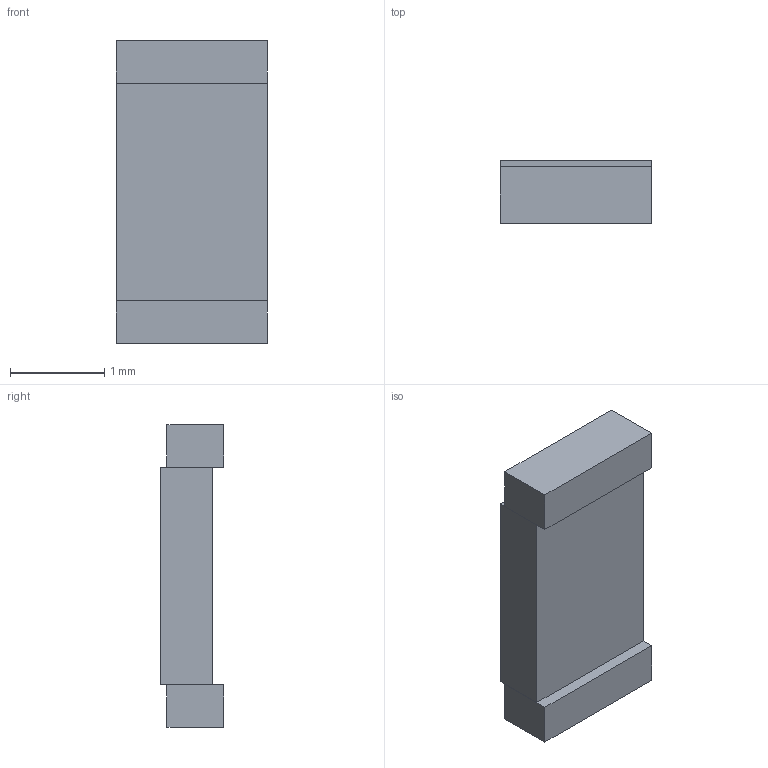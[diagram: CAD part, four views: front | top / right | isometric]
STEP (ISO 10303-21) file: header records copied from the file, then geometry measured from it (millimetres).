
FILE_DESCRIPTION(/* description */ (''),/* implementation_level */ '2;1');
FILE_NAME(/* name */ 'C:\Users\Hani\Desktop\work\F1206\F1206.stp',/* time_stamp */ '2022-02-18T14:08:20-08:00',/* author */ ('Hani'),/* organization */ (''),/* preprocessor_version */ 'ST-DEVELOPER v17',/* originating_system */ 'Autodesk Inventor 2019',/* authorisation */ '');
FILE_SCHEMA (('AUTOMOTIVE_DESIGN { 1 0 10303 214 3 1 1 }'));
Length unit declared in the file: inch
Products named in the file (1): F1206
Bounding box: 1.6 x 0.67 x 3.21 mm (x, y, z)
Volume: 2.9 mm3; surface area: 19.5 mm2
Topology: 3 solids, 3 shells, 154 faces, 408 edges, 272 vertices
Faces by surface type: plane 87, bspline 67
Entity records: 5331 total; most frequent: CARTESIAN_POINT 1892, ORIENTED_EDGE 816, DIRECTION 450, EDGE_CURVE 408, LINE 274, VECTOR 274, VERTEX_POINT 272, EDGE_LOOP 166
